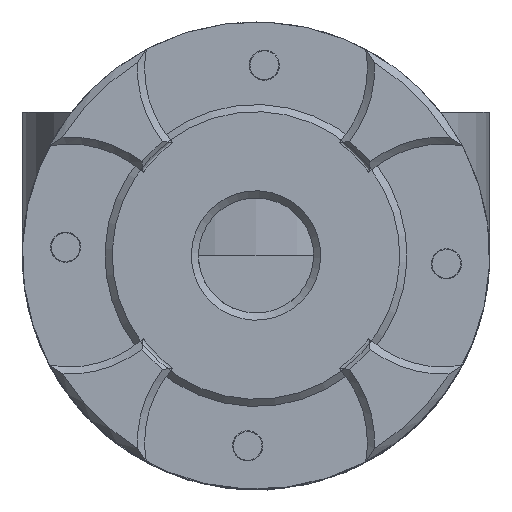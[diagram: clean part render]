
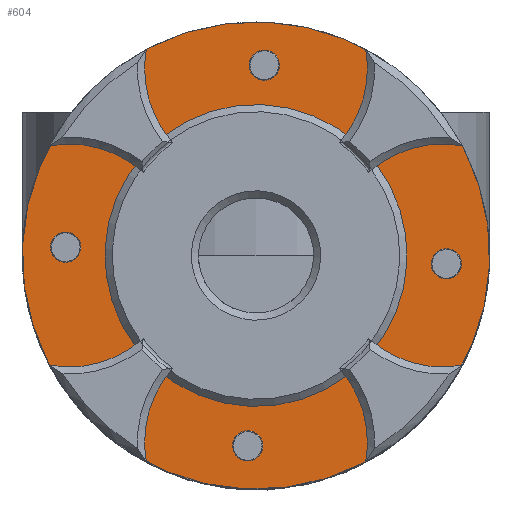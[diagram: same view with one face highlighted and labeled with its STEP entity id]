
A CAD part, top view. The second image highlights one B-rep face of the part: STEP entity #604.
In plain terms, the highlighted planar face has unit normal (0, 0, 1) as drawn and (0, -1, 0) by its records, which use the part's own axes.
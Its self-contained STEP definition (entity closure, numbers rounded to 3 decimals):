
#604 = ADVANCED_FACE( '', ( #1189, #1190, #1191, #1192, #1193, #1194, #1195, #1196, #1197, #1198 ), #1199, .F. );
#1189 = FACE_BOUND( '', #1715, .T. );
#1190 = FACE_BOUND( '', #1716, .T. );
#1191 = FACE_BOUND( '', #1717, .T. );
#1192 = FACE_BOUND( '', #1718, .T. );
#1193 = FACE_BOUND( '', #1719, .T. );
#1194 = FACE_BOUND( '', #1720, .T. );
#1195 = FACE_BOUND( '', #1721, .T. );
#1196 = FACE_BOUND( '', #1722, .T. );
#1197 = FACE_BOUND( '', #1723, .T. );
#1198 = FACE_OUTER_BOUND( '', #1724, .T. );
#1199 = PLANE( '', #1725 );
#1715 = EDGE_LOOP( '', ( #3084 ) );
#1716 = EDGE_LOOP( '', ( #3085 ) );
#1717 = EDGE_LOOP( '', ( #3086 ) );
#1718 = EDGE_LOOP( '', ( #3087 ) );
#1719 = EDGE_LOOP( '', ( #3088 ) );
#1720 = EDGE_LOOP( '', ( #3089 ) );
#1721 = EDGE_LOOP( '', ( #3090 ) );
#1722 = EDGE_LOOP( '', ( #3091 ) );
#1723 = EDGE_LOOP( '', ( #3092 ) );
#1724 = EDGE_LOOP( '', ( #3093 ) );
#1725 = AXIS2_PLACEMENT_3D( '', #3094, #3095, #3096 );
#3084 = ORIENTED_EDGE( '', *, *, #3651, .F. );
#3085 = ORIENTED_EDGE( '', *, *, #3652, .F. );
#3086 = ORIENTED_EDGE( '', *, *, #3653, .F. );
#3087 = ORIENTED_EDGE( '', *, *, #3654, .F. );
#3088 = ORIENTED_EDGE( '', *, *, #3655, .F. );
#3089 = ORIENTED_EDGE( '', *, *, #3656, .F. );
#3090 = ORIENTED_EDGE( '', *, *, #3657, .F. );
#3091 = ORIENTED_EDGE( '', *, *, #3658, .F. );
#3092 = ORIENTED_EDGE( '', *, *, #3659, .F. );
#3093 = ORIENTED_EDGE( '', *, *, #3648, .T. );
#3094 = CARTESIAN_POINT( '', ( 0., 0., 32.5 ) );
#3095 = DIRECTION( '', ( 0., 1., 0. ) );
#3096 = DIRECTION( '', ( 0., 0., 1. ) );
#3648 = EDGE_CURVE( '', #4353, #4353, #4354, .T. );
#3651 = EDGE_CURVE( '', #4359, #4359, #4360, .T. );
#3652 = EDGE_CURVE( '', #4361, #4361, #4362, .T. );
#3653 = EDGE_CURVE( '', #4363, #4363, #4364, .T. );
#3654 = EDGE_CURVE( '', #4365, #4365, #4366, .T. );
#3655 = EDGE_CURVE( '', #4367, #4367, #4368, .T. );
#3656 = EDGE_CURVE( '', #4369, #4369, #4370, .T. );
#3657 = EDGE_CURVE( '', #4371, #4371, #4372, .T. );
#3658 = EDGE_CURVE( '', #4373, #4373, #4374, .T. );
#3659 = EDGE_CURVE( '', #4375, #4375, #4376, .T. );
#4353 = VERTEX_POINT( '', #5507 );
#4354 = CIRCLE( '', #5508, 32.5 );
#4359 = VERTEX_POINT( '', #5513 );
#4360 = CIRCLE( '', #5514, 2.1 );
#4361 = VERTEX_POINT( '', #5515 );
#4362 = CIRCLE( '', #5516, 2.1 );
#4363 = VERTEX_POINT( '', #5517 );
#4364 = CIRCLE( '', #5518, 2.1 );
#4365 = VERTEX_POINT( '', #5519 );
#4366 = CIRCLE( '', #5520, 2.1 );
#4367 = VERTEX_POINT( '', #5521 );
#4368 = CIRCLE( '', #5522, 2.1 );
#4369 = VERTEX_POINT( '', #5523 );
#4370 = CIRCLE( '', #5524, 2.1 );
#4371 = VERTEX_POINT( '', #5525 );
#4372 = CIRCLE( '', #5526, 2.1 );
#4373 = VERTEX_POINT( '', #5527 );
#4374 = CIRCLE( '', #5528, 2.1 );
#4375 = VERTEX_POINT( '', #5529 );
#4376 = CIRCLE( '', #5530, 21. );
#5507 = CARTESIAN_POINT( '', ( 0., 0., -32.5 ) );
#5508 = AXIS2_PLACEMENT_3D( '', #6270, #6271, #6272 );
#5513 = CARTESIAN_POINT( '', ( -20.387, 0., 19.03 ) );
#5514 = AXIS2_PLACEMENT_3D( '', #6279, #6280, #6281 );
#5515 = CARTESIAN_POINT( '', ( -26.5, 0., 2.1 ) );
#5516 = AXIS2_PLACEMENT_3D( '', #6282, #6283, #6284 );
#5517 = CARTESIAN_POINT( '', ( -19.03, 0., -20.387 ) );
#5518 = AXIS2_PLACEMENT_3D( '', #6285, #6286, #6287 );
#5519 = CARTESIAN_POINT( '', ( -2.1, 0., -26.5 ) );
#5520 = AXIS2_PLACEMENT_3D( '', #6288, #6289, #6290 );
#5521 = CARTESIAN_POINT( '', ( 20.387, 0., -19.03 ) );
#5522 = AXIS2_PLACEMENT_3D( '', #6291, #6292, #6293 );
#5523 = CARTESIAN_POINT( '', ( 26.5, 0., -2.1 ) );
#5524 = AXIS2_PLACEMENT_3D( '', #6294, #6295, #6296 );
#5525 = CARTESIAN_POINT( '', ( 19.03, 0., 20.387 ) );
#5526 = AXIS2_PLACEMENT_3D( '', #6297, #6298, #6299 );
#5527 = CARTESIAN_POINT( '', ( 2.1, 0., 26.5 ) );
#5528 = AXIS2_PLACEMENT_3D( '', #6300, #6301, #6302 );
#5529 = CARTESIAN_POINT( '', ( 0., 0., -21. ) );
#5530 = AXIS2_PLACEMENT_3D( '', #6303, #6304, #6305 );
#6270 = CARTESIAN_POINT( '', ( 0., 0., 0. ) );
#6271 = DIRECTION( '', ( 0., -1., 0. ) );
#6272 = DIRECTION( '', ( 0., 0., -1. ) );
#6279 = CARTESIAN_POINT( '', ( -20.387, 0., 16.93 ) );
#6280 = DIRECTION( '', ( 0., -1., 0. ) );
#6281 = DIRECTION( '', ( 0., 0., 1. ) );
#6282 = CARTESIAN_POINT( '', ( -26.5, 0., 0. ) );
#6283 = DIRECTION( '', ( 0., -1., 0. ) );
#6284 = DIRECTION( '', ( 0., 0., 1. ) );
#6285 = CARTESIAN_POINT( '', ( -16.93, 0., -20.387 ) );
#6286 = DIRECTION( '', ( 0., -1., 0. ) );
#6287 = DIRECTION( '', ( -1., 0., 0. ) );
#6288 = CARTESIAN_POINT( '', ( 0., 0., -26.5 ) );
#6289 = DIRECTION( '', ( 0., -1., 0. ) );
#6290 = DIRECTION( '', ( -1., 0., 0. ) );
#6291 = CARTESIAN_POINT( '', ( 20.387, 0., -16.93 ) );
#6292 = DIRECTION( '', ( 0., -1., 0. ) );
#6293 = DIRECTION( '', ( 0., 0., -1. ) );
#6294 = CARTESIAN_POINT( '', ( 26.5, 0., 0. ) );
#6295 = DIRECTION( '', ( 0., -1., 0. ) );
#6296 = DIRECTION( '', ( 0., 0., -1. ) );
#6297 = CARTESIAN_POINT( '', ( 16.93, 0., 20.387 ) );
#6298 = DIRECTION( '', ( 0., -1., 0. ) );
#6299 = DIRECTION( '', ( 1., 0., 0. ) );
#6300 = CARTESIAN_POINT( '', ( 0., 0., 26.5 ) );
#6301 = DIRECTION( '', ( 0., -1., 0. ) );
#6302 = DIRECTION( '', ( 1., 0., 0. ) );
#6303 = CARTESIAN_POINT( '', ( 0., 0., 0. ) );
#6304 = DIRECTION( '', ( 0., -1., 0. ) );
#6305 = DIRECTION( '', ( 0., 0., -1. ) );
